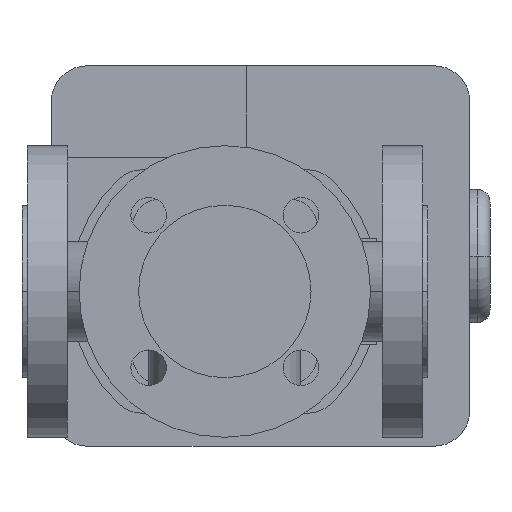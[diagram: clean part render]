
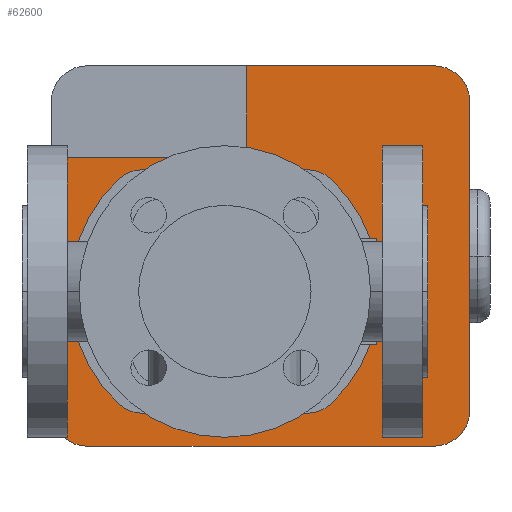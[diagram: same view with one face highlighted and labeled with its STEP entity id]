
A CAD part, front view. The second image highlights one B-rep face of the part: STEP entity #62600.
In plain terms, the highlighted planar face has unit normal (0, -1, 0).
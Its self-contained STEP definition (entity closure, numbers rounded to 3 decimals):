
#51450=CARTESIAN_POINT('',(139.96,502.,11.216));
#51460=VERTEX_POINT('',#51450);
#51490=CARTESIAN_POINT('',(130.,502.,0.));
#51500=DIRECTION('',(0.,1.,0.));
#51510=DIRECTION('',(0.,0.,1.));
#51520=AXIS2_PLACEMENT_3D('',#51490,#51500,#51510);
#51530=CIRCLE('',#51520,15.);
#51540=CARTESIAN_POINT('',(139.96,502.,-11.216));
#51550=VERTEX_POINT('',#51540);
#51560=EDGE_CURVE('',#51460,#51550,#51530,.T.);
#54280=CARTESIAN_POINT('',(122.116,502.,44.128));
#54290=VERTEX_POINT('',#54280);
#54320=CARTESIAN_POINT('',(80.,502.,0.));
#54330=DIRECTION('',(0.,1.,0.));
#54340=DIRECTION('',(0.69,0.,0.723));
#54350=AXIS2_PLACEMENT_3D('',#54320,#54330,#54340);
#54360=CIRCLE('',#54350,61.);
#54370=EDGE_CURVE('',#54290,#51460,#54360,.T.);
#54760=CARTESIAN_POINT('',(20.04,502.,-11.216));
#54770=VERTEX_POINT('',#54760);
#54800=CARTESIAN_POINT('',(30.,502.,0.));
#54810=DIRECTION('',(0.,1.,0.));
#54820=DIRECTION('',(0.,0.,-1.));
#54830=AXIS2_PLACEMENT_3D('',#54800,#54810,#54820);
#54840=CIRCLE('',#54830,15.);
#54850=CARTESIAN_POINT('',(20.04,502.,11.216));
#54860=VERTEX_POINT('',#54850);
#54870=EDGE_CURVE('',#54770,#54860,#54840,.T.);
#55860=CARTESIAN_POINT('',(37.884,502.,-44.128));
#55870=VERTEX_POINT('',#55860);
#55900=CARTESIAN_POINT('',(80.,502.,0.));
#55910=DIRECTION('',(0.,1.,0.));
#55920=DIRECTION('',(-0.69,0.,-0.723));
#55930=AXIS2_PLACEMENT_3D('',#55900,#55910,#55920);
#55940=CIRCLE('',#55930,61.);
#55950=EDGE_CURVE('',#55870,#54770,#55940,.T.);
#58330=CARTESIAN_POINT('',(176.6,502.,-47.));
#58340=VERTEX_POINT('',#58330);
#58370=CARTESIAN_POINT('',(176.6,502.,75.));
#58380=DIRECTION('',(0.,0.,-1.));
#58390=VECTOR('',#58380,1.);
#58400=LINE('',#58370,#58390);
#58410=CARTESIAN_POINT('',(176.6,502.,75.));
#58420=VERTEX_POINT('',#58410);
#58430=EDGE_CURVE('',#58420,#58340,#58400,.T.);
#61150=CARTESIAN_POINT('',(80.,502.,0.));
#61160=DIRECTION('',(0.,1.,0.));
#61170=DIRECTION('',(0.,0.,1.));
#61180=AXIS2_PLACEMENT_3D('',#61150,#61160,#61170);
#61190=PLANE('',#61180);
#61200=ORIENTED_EDGE('',*,*,#54370,.T.);
#61210=CARTESIAN_POINT('',(112.45,502.,34.));
#61220=DIRECTION('',(0.,1.,0.));
#61230=DIRECTION('',(0.,0.,1.));
#61240=AXIS2_PLACEMENT_3D('',#61210,#61220,#61230);
#61250=CIRCLE('',#61240,14.);
#61260=CARTESIAN_POINT('',(112.45,502.,48.));
#61270=VERTEX_POINT('',#61260);
#61280=EDGE_CURVE('',#61270,#54290,#61250,.T.);
#61290=ORIENTED_EDGE('',*,*,#61280,.T.);
#61300=CARTESIAN_POINT('',(63.775,502.,48.));
#61310=DIRECTION('',(1.,0.,0.));
#61320=VECTOR('',#61310,1.);
#61330=LINE('',#61300,#61320);
#61340=CARTESIAN_POINT('',(47.55,502.,48.));
#61350=VERTEX_POINT('',#61340);
#61360=EDGE_CURVE('',#61350,#61270,#61330,.T.);
#61370=ORIENTED_EDGE('',*,*,#61360,.T.);
#61380=CARTESIAN_POINT('',(47.55,502.,34.));
#61390=DIRECTION('',(0.,1.,0.));
#61400=DIRECTION('',(-0.69,0.,0.723));
#61410=AXIS2_PLACEMENT_3D('',#61380,#61390,#61400);
#61420=CIRCLE('',#61410,14.);
#61430=CARTESIAN_POINT('',(37.884,502.,44.128));
#61440=VERTEX_POINT('',#61430);
#61450=EDGE_CURVE('',#61440,#61350,#61420,.T.);
#61460=ORIENTED_EDGE('',*,*,#61450,.T.);
#61470=CARTESIAN_POINT('',(80.,502.,0.));
#61480=DIRECTION('',(0.,1.,0.));
#61490=DIRECTION('',(-0.69,0.,-0.723));
#61500=AXIS2_PLACEMENT_3D('',#61470,#61480,#61490);
#61510=CIRCLE('',#61500,61.);
#61520=EDGE_CURVE('',#54860,#61440,#61510,.T.);
#61530=ORIENTED_EDGE('',*,*,#61520,.T.);
#61540=ORIENTED_EDGE('',*,*,#54870,.T.);
#61550=ORIENTED_EDGE('',*,*,#55950,.T.);
#61560=CARTESIAN_POINT('',(47.55,502.,-34.));
#61570=DIRECTION('',(0.,1.,0.));
#61580=DIRECTION('',(0.,0.,-1.));
#61590=AXIS2_PLACEMENT_3D('',#61560,#61570,#61580);
#61600=CIRCLE('',#61590,14.);
#61610=CARTESIAN_POINT('',(47.55,502.,-48.));
#61620=VERTEX_POINT('',#61610);
#61630=EDGE_CURVE('',#61620,#55870,#61600,.T.);
#61640=ORIENTED_EDGE('',*,*,#61630,.T.);
#61650=CARTESIAN_POINT('',(96.225,502.,-48.));
#61660=DIRECTION('',(-1.,0.,0.));
#61670=VECTOR('',#61660,1.);
#61680=LINE('',#61650,#61670);
#61690=CARTESIAN_POINT('',(112.45,502.,-48.));
#61700=VERTEX_POINT('',#61690);
#61710=EDGE_CURVE('',#61700,#61620,#61680,.T.);
#61720=ORIENTED_EDGE('',*,*,#61710,.T.);
#61730=CARTESIAN_POINT('',(112.45,502.,-34.));
#61740=DIRECTION('',(0.,1.,0.));
#61750=DIRECTION('',(0.69,0.,-0.723));
#61760=AXIS2_PLACEMENT_3D('',#61730,#61740,#61750);
#61770=CIRCLE('',#61760,14.);
#61780=CARTESIAN_POINT('',(122.116,502.,-44.128));
#61790=VERTEX_POINT('',#61780);
#61800=EDGE_CURVE('',#61790,#61700,#61770,.T.);
#61810=ORIENTED_EDGE('',*,*,#61800,.T.);
#61820=CARTESIAN_POINT('',(80.,502.,0.));
#61830=DIRECTION('',(0.,1.,0.));
#61840=DIRECTION('',(0.69,0.,0.723));
#61850=AXIS2_PLACEMENT_3D('',#61820,#61830,#61840);
#61860=CIRCLE('',#61850,61.);
#61870=EDGE_CURVE('',#51550,#61790,#61860,.T.);
#61880=ORIENTED_EDGE('',*,*,#61870,.T.);
#61890=ORIENTED_EDGE('',*,*,#51560,.T.);
#61900=EDGE_LOOP('',(#61890,#61880,#61810,#61720,#61640,#61550,#61540,
#61530,#61460,#61370,#61290,#61200));
#61910=FACE_BOUND('',#61900,.T.);
#61920=CARTESIAN_POINT('',(88.6,502.,26.5));
#61930=DIRECTION('',(0.,0.,-1.));
#61940=VECTOR('',#61930,1.);
#61950=LINE('',#61920,#61940);
#61960=CARTESIAN_POINT('',(88.6,502.,89.));
#61970=VERTEX_POINT('',#61960);
#61980=CARTESIAN_POINT('',(88.6,502.,53.));
#61990=VERTEX_POINT('',#61980);
#62000=EDGE_CURVE('',#61970,#61990,#61950,.T.);
#62010=ORIENTED_EDGE('',*,*,#62000,.T.);
#62020=CARTESIAN_POINT('',(25.6,502.,89.));
#62030=DIRECTION('',(1.,0.,0.));
#62040=VECTOR('',#62030,1.);
#62050=LINE('',#62020,#62040);
#62060=CARTESIAN_POINT('',(162.6,502.,89.));
#62070=VERTEX_POINT('',#62060);
#62080=EDGE_CURVE('',#61970,#62070,#62050,.T.);
#62090=ORIENTED_EDGE('',*,*,#62080,.F.);
#62100=CARTESIAN_POINT('',(162.6,502.,75.));
#62110=DIRECTION('',(0.,1.,0.));
#62120=DIRECTION('',(0.,0.,1.));
#62130=AXIS2_PLACEMENT_3D('',#62100,#62110,#62120);
#62140=CIRCLE('',#62130,14.);
#62150=EDGE_CURVE('',#62070,#58420,#62140,.T.);
#62160=ORIENTED_EDGE('',*,*,#62150,.F.);
#62170=ORIENTED_EDGE('',*,*,#58430,.F.);
#62180=CARTESIAN_POINT('',(162.6,502.,-47.));
#62190=DIRECTION('',(0.,1.,0.));
#62200=DIRECTION('',(1.,0.,0.));
#62210=AXIS2_PLACEMENT_3D('',#62180,#62190,#62200);
#62220=CIRCLE('',#62210,14.);
#62230=CARTESIAN_POINT('',(162.6,502.,-61.));
#62240=VERTEX_POINT('',#62230);
#62250=EDGE_CURVE('',#58340,#62240,#62220,.T.);
#62260=ORIENTED_EDGE('',*,*,#62250,.F.);
#62270=CARTESIAN_POINT('',(162.6,502.,-61.));
#62280=DIRECTION('',(-1.,0.,0.));
#62290=VECTOR('',#62280,1.);
#62300=LINE('',#62270,#62290);
#62310=CARTESIAN_POINT('',(25.6,502.,-61.));
#62320=VERTEX_POINT('',#62310);
#62330=EDGE_CURVE('',#62240,#62320,#62300,.T.);
#62340=ORIENTED_EDGE('',*,*,#62330,.F.);
#62350=CARTESIAN_POINT('',(25.6,502.,-47.));
#62360=DIRECTION('',(0.,1.,0.));
#62370=DIRECTION('',(0.,0.,-1.));
#62380=AXIS2_PLACEMENT_3D('',#62350,#62360,#62370);
#62390=CIRCLE('',#62380,14.);
#62400=CARTESIAN_POINT('',(11.6,502.,-47.));
#62410=VERTEX_POINT('',#62400);
#62420=EDGE_CURVE('',#62320,#62410,#62390,.T.);
#62430=ORIENTED_EDGE('',*,*,#62420,.F.);
#62440=CARTESIAN_POINT('',(11.6,502.,-47.));
#62450=DIRECTION('',(0.,0.,1.));
#62460=VECTOR('',#62450,1.);
#62470=LINE('',#62440,#62460);
#62480=CARTESIAN_POINT('',(11.6,502.,53.));
#62490=VERTEX_POINT('',#62480);
#62500=EDGE_CURVE('',#62410,#62490,#62470,.T.);
#62510=ORIENTED_EDGE('',*,*,#62500,.F.);
#62520=CARTESIAN_POINT('',(45.3,502.,53.));
#62530=DIRECTION('',(-1.,0.,0.));
#62540=VECTOR('',#62530,1.);
#62550=LINE('',#62520,#62540);
#62560=EDGE_CURVE('',#61990,#62490,#62550,.T.);
#62570=ORIENTED_EDGE('',*,*,#62560,.T.);
#62580=EDGE_LOOP('',(#62570,#62510,#62430,#62340,#62260,#62170,#62160,
#62090,#62010));
#62590=FACE_OUTER_BOUND('',#62580,.T.);
#62600=ADVANCED_FACE('',(#61910,#62590),#61190,.F.);
